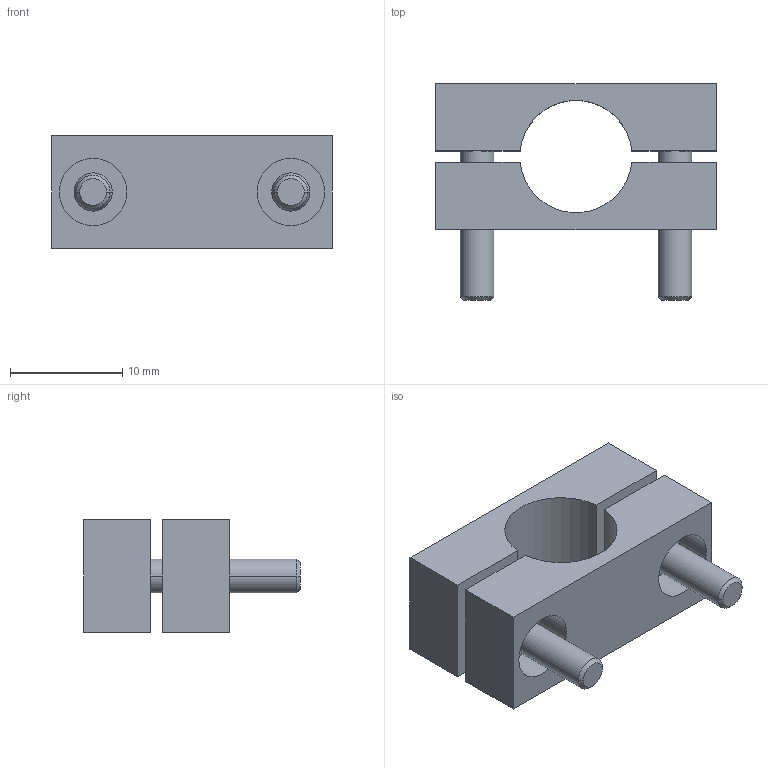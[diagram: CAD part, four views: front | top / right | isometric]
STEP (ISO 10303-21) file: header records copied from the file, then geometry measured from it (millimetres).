
FILE_DESCRIPTION( ( '' ), '1' );
FILE_NAME( '//expscmdclustefs.cadenas.external/client_exchange/iodir/jobs/output/wkb55274555_no0/STEP/E20353_2_03.stp', '2013-03-07T10:55:56', ( '' ), ( '' ), ' ', ' ', ' ' );
FILE_SCHEMA( ( 'CONFIG_CONTROL_DESIGN' ) );
Length unit declared in the file: millimetre
Products named in the file (4): 1; 2; 3; 4
Bounding box: 25 x 19.3 x 10 mm (x, y, z)
Volume: 2153.5 mm3; surface area: 2562.5 mm2
Topology: 4 solids, 4 shells, 92 faces, 238 edges, 162 vertices
Faces by surface type: plane 38, cylinder 26, torus 16, cone 12
Entity records: 3052 total; most frequent: CARTESIAN_POINT 544, DIRECTION 528, ORIENTED_EDGE 476, EDGE_CURVE 238, AXIS2_PLACEMENT_3D 218, VERTEX_POINT 162, CIRCLE 122, EDGE_LOOP 108
